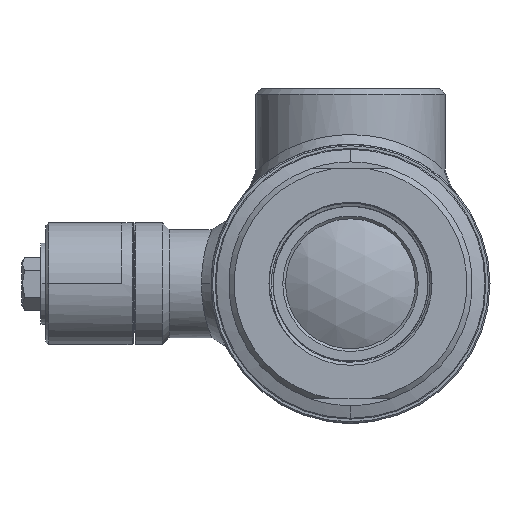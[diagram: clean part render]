
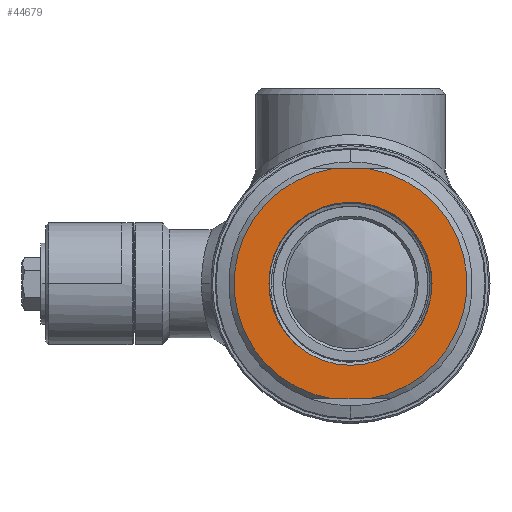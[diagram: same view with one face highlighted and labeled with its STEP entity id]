
A CAD part, left-side view. The second image highlights one B-rep face of the part: STEP entity #44679.
In plain terms, the highlighted planar face has unit normal (-1, 0, 0).
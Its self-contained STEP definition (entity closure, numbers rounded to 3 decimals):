
#1746=DIRECTION('',(0.,-1.,0.));
#1747=VECTOR('',#1746,13.077);
#1748=CARTESIAN_POINT('',(-72.,6.538,-42.5));
#1749=LINE('',#1748,#1747);
#1753=DIRECTION('',(0.,-1.,0.));
#1754=VECTOR('',#1753,13.077);
#1755=CARTESIAN_POINT('',(-72.,6.538,42.5));
#1756=LINE('',#1755,#1754);
#1768=CARTESIAN_POINT('',(-72.,0.,0.));
#1769=DIRECTION('',(-1.,0.,0.));
#1770=DIRECTION('',(0.,0.152,0.988));
#1771=AXIS2_PLACEMENT_3D('',#1768,#1769,#1770);
#1821=CARTESIAN_POINT('',(-72.,0.,0.));
#1822=DIRECTION('',(-1.,0.,0.));
#1823=DIRECTION('',(0.,-0.152,-0.988));
#1824=AXIS2_PLACEMENT_3D('',#1821,#1822,#1823);
#1845=CARTESIAN_POINT('',(-72.,0.,0.));
#1846=DIRECTION('',(1.,0.,0.));
#1847=DIRECTION('',(0.,1.,0.));
#1848=AXIS2_PLACEMENT_3D('',#1845,#1846,#1847);
#2766=CARTESIAN_POINT('',(-72.,0.,0.));
#2767=DIRECTION('',(1.,0.,0.));
#2768=DIRECTION('',(0.,-1.,0.));
#2769=AXIS2_PLACEMENT_3D('',#2766,#2767,#2768);
#42935=CARTESIAN_POINT('',(-72.,30.1,0.));
#42936=CARTESIAN_POINT('',(-72.,-30.1,0.));
#42937=VERTEX_POINT('',#42935);
#42938=VERTEX_POINT('',#42936);
#42943=CARTESIAN_POINT('',(-72.,6.538,-42.5));
#42944=CARTESIAN_POINT('',(-72.,-6.538,-42.5));
#42945=VERTEX_POINT('',#42943);
#42946=VERTEX_POINT('',#42944);
#42947=CARTESIAN_POINT('',(-72.,6.538,42.5));
#42948=CARTESIAN_POINT('',(-72.,-6.538,42.5));
#42949=VERTEX_POINT('',#42947);
#42950=VERTEX_POINT('',#42948);
#44659=CARTESIAN_POINT('',(-72.,0.,0.));
#44660=DIRECTION('',(-1.,0.,0.));
#44661=DIRECTION('',(0.,0.,-1.));
#44662=AXIS2_PLACEMENT_3D('',#44659,#44660,#44661);
#44663=PLANE('',#44662);
#44664=ORIENTED_EDGE('',*,*,#44645,.F.);
#44666=ORIENTED_EDGE('',*,*,#44665,.F.);
#44668=ORIENTED_EDGE('',*,*,#44667,.T.);
#44670=ORIENTED_EDGE('',*,*,#44669,.F.);
#44671=EDGE_LOOP('',(#44664,#44666,#44668,#44670));
#44672=FACE_OUTER_BOUND('',#44671,.F.);
#44674=ORIENTED_EDGE('',*,*,#44673,.F.);
#44676=ORIENTED_EDGE('',*,*,#44675,.F.);
#44677=EDGE_LOOP('',(#44674,#44676));
#44678=FACE_BOUND('',#44677,.F.);
#44679=ADVANCED_FACE('',(#44672,#44678),#44663,.T.);
#1772=CIRCLE('',#1771,43.);
#1825=CIRCLE('',#1824,43.);
#1849=CIRCLE('',#1848,30.1);
#2770=CIRCLE('',#2769,30.1);
#44645=EDGE_CURVE('',#42945,#42946,#1749,.T.);
#44665=EDGE_CURVE('',#42949,#42945,#1772,.T.);
#44667=EDGE_CURVE('',#42949,#42950,#1756,.T.);
#44669=EDGE_CURVE('',#42946,#42950,#1825,.T.);
#44673=EDGE_CURVE('',#42937,#42938,#1849,.T.);
#44675=EDGE_CURVE('',#42938,#42937,#2770,.T.);
